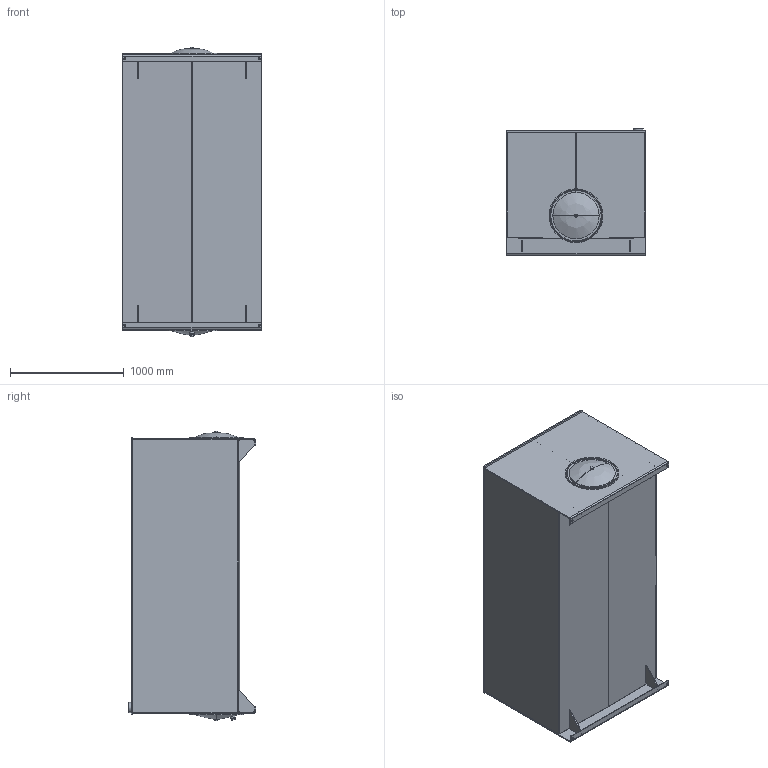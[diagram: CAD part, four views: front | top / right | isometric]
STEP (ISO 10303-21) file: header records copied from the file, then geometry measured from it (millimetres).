
FILE_DESCRIPTION (( 'STEP AP214' ), '1' );
FILE_NAME ('T1-600.STEP', '2025-04-03T15:51:26', ( '' ), ( '' ), 'SwSTEP 2.0', 'SolidWorks 2013', '' );
FILE_SCHEMA (( 'AUTOMOTIVE_DESIGN' ));
Length unit declared in the file: inch
Products named in the file (18): DRAIN; T1-600-LD; TL-EC-18; 0.625 - 11 BAFFLE NUT; FILLER RISER; T1-600-BDYA; T1-600-GST; T1-600-EB; T1-600; CRUSH WASHER; T1-600-BFL; TL-EC-18WD; T1-600-BDYB; 0.625 - 11 HEX BOLT; 18.00 END COVER; 18.00 GASKET; 18.00 END COVER WITH DRAIN; T1-600-EA
Assembly tree (25 placements, depth 3):
  T1-600
    T1-600-BDYA
    T1-600-BDYB  x2
    T1-600-EA
    T1-600-EB
    T1-600-BFL
    T1-600-LD
    T1-600-GST  x4
    FILLER RISER
    TL-EC-18
      18.00 END COVER
      18.00 GASKET
      CRUSH WASHER
      0.625 - 11 HEX BOLT
      0.625 - 11 BAFFLE NUT
    TL-EC-18WD
      18.00 GASKET
      CRUSH WASHER
      0.625 - 11 HEX BOLT
      0.625 - 11 BAFFLE NUT
      18.00 END COVER WITH DRAIN
      DRAIN
Bounding box: 1219.2 x 1117.6 x 2547.94 mm (x, y, z)
Volume: 109728657.5 mm3; surface area: 31495082.4 mm2
Topology: 24 solids, 24 shells, 290 faces, 668 edges, 434 vertices
Faces by surface type: plane 165, cylinder 105, cone 10, bspline 8, torus 2
Entity records: 8329 total; most frequent: CARTESIAN_POINT 1417, DIRECTION 1198, ORIENTED_EDGE 1036, EDGE_CURVE 518, AXIS2_PLACEMENT_3D 449, VERTEX_POINT 334, VECTOR 300, LINE 300
